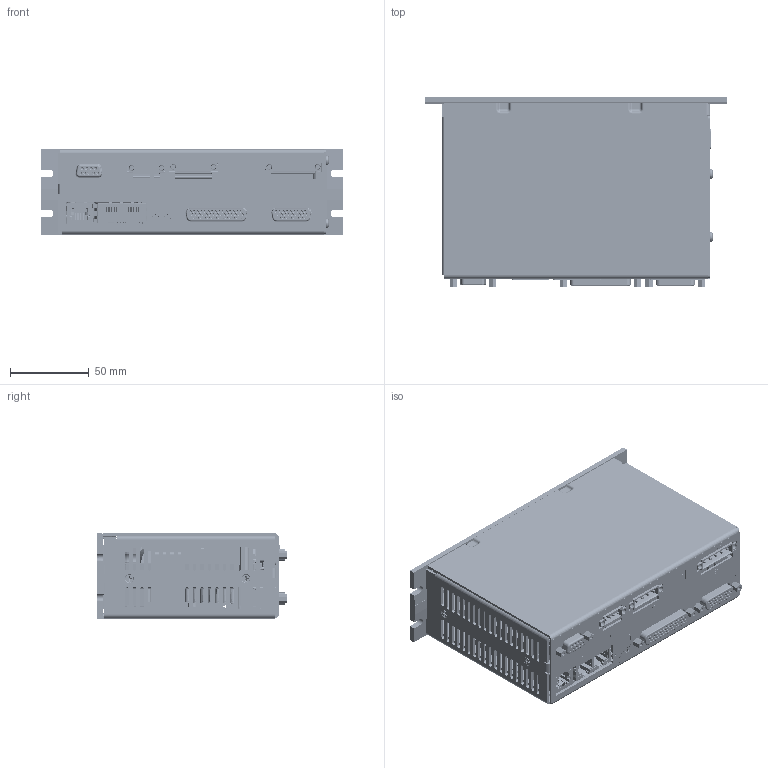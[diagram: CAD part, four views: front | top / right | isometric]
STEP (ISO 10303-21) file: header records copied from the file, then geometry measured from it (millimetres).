
FILE_DESCRIPTION (( 'STEP AP214' ), '1' );
FILE_NAME ('XEC.STEP', '2017-01-03T14:24:29', ( 'tempadmin' ), ( 'Microsoft' ), 'SwSTEP 2.0', 'SolidWorks 2014', '' );
FILE_SCHEMA (( 'AUTOMOTIVE_DESIGN' ));
Length unit declared in the file: inch
Products named in the file (64): 6-80881-01_Decal A; 108142; 101711; XEC; 6-80881-01_Decal B; 30-900035; 107714; 6-80881-01_ArtWork; 101814; 153-002645; 6-80881-01; 101724; 3-77706; 18-141D04; 101723; 10-77691-01_152-001045_TIE .25 WIRE; 10-78256-01; 101709; 6-80955-02_Bent; 109455_installed; 108003; 18-1C1D04; 109459; 10-77715-01_21-04192-01; 10-77715-01; 6-80662-01; 3-77715; 10-77715-01_15-600038; 6-80661-02; 109022; 3-77715R1rev00; 30-900045; 18-1C1D03; 6-81075-01; 6-80938-01; 21-05716-01_With Harness; 49-0000513; 6-80955-01_Bent; 21-05716-01_Regen Harness; 49-286347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
Assembly tree (95 placements, depth 5):
  XEC
    6-80660-01
    21-05366-01
      21-05366-01_Item B
      21-05366-01_Item A
    71-00466-000
    21-05716-01_With Harness
      21-05716-01
      21-05716-01_Regen Harness
    18-1C1D03  x2
    109022
    10-77715-01
      3-77715
      10-77715-01_21-04192-01
      108003  x2
      101709
      101723
      101724
      101814
      30-900035
      108142
      15-003447
        15-003447_Top_Max dims
        15-003447_Bottom
      21-03532-01
        15-003447
          15-003447_Top_Max dims
          15-003447_Bottom
      49-286347  x2
      49-0000513  x3
      6-81075-01
      3-77715R1rev00
      10-77715-01_15-600038
    18-1C1D04  x11
    6-80955-02_Bent
    10-77691-01_152-001045_TIE .25 WIRE
    10-77706-01
      3-77706
      153-002645
      107714  x2
      101711
      101712
      153-003323
        153-003323_Item A
        153-003323_Item B
      108142
      49-900192  x2
      3-77706R0rev00
    6-80955-01_Bent
    30-900045
      6-80938-01
    6-80661-02
    10-78256-01
      6-80662-01
      109459
      109455_installed  x4
    18-141D04  x6
    6-80881-01
      6-80881-01
      6-80881-01_ArtWork
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Bounding box: 191.41 x 120.31 x 54.18 mm (x, y, z)
Volume: 501914.8 mm3; surface area: 541639.4 mm2
Topology: 1206 solids, 4665 shells, 25567 faces, 75257 edges, 55952 vertices
Faces by surface type: plane 16708, cylinder 5641, bspline 2287, cone 692, torus 150, sphere 89
Entity records: 925874 total; most frequent: CARTESIAN_POINT 240452, ORIENTED_EDGE 107452, DIRECTION 102119, EDGE_CURVE 59121, VERTEX_POINT 42390, LINE 42327, VECTOR 42327, AXIS2_PLACEMENT_3D 29896
